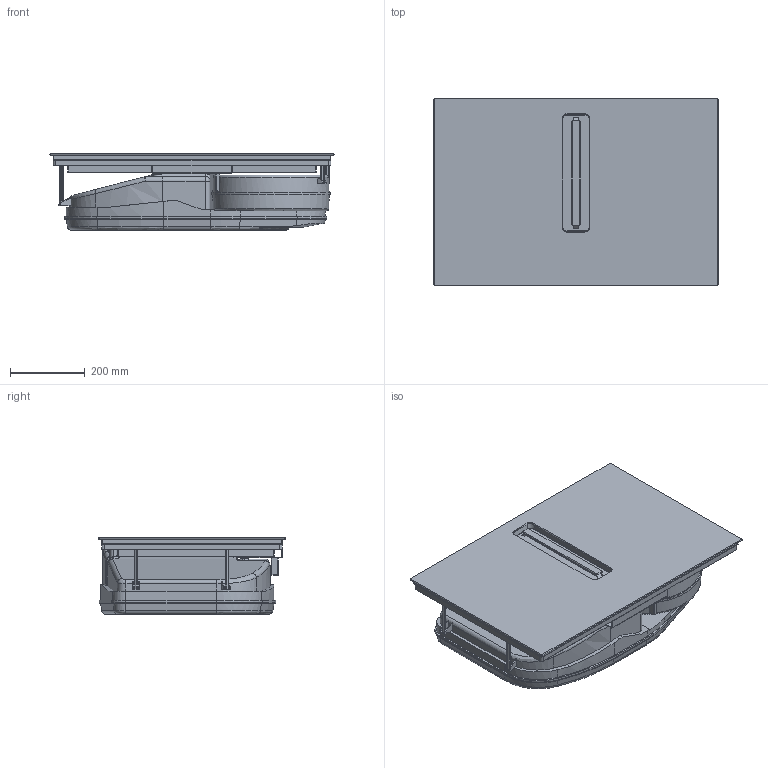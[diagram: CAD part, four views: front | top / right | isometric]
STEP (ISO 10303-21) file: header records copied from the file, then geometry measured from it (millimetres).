
FILE_DESCRIPTION(/* description */ (''),/* implementation_level */ '2;1');
FILE_NAME(/* name */ 'X3109500000',/* time_stamp */ '2022-01-17T15:56:27+01:00',/* author */ (''),/* organization */ (''),/* preprocessor_version */ 'ST-DEVELOPER v16.5',/* originating_system */ 'Rhino 7.13',/* authorisation */ '');
FILE_SCHEMA (('AUTOMOTIVE_DESIGN_CC2'));
Length unit declared in the file: millimetre
Products named in the file (1): Document
Bounding box: 761 x 501 x 206 mm (x, y, z)
Volume: 44588322.8 mm3; surface area: 4141590.1 mm2
Topology: 16 solids, 16 shells, 726 faces, 1802 edges, 1105 vertices
Faces by surface type: plane 362, cylinder 188, bspline 176
Entity records: 34666 total; most frequent: CARTESIAN_POINT 22566, ORIENTED_EDGE 3572, EDGE_CURVE 1786, B_SPLINE_CURVE_WITH_KNOTS 1483, VERTEX_POINT 1105, EDGE_LOOP 747, ADVANCED_FACE 726, FACE_OUTER_BOUND 726
